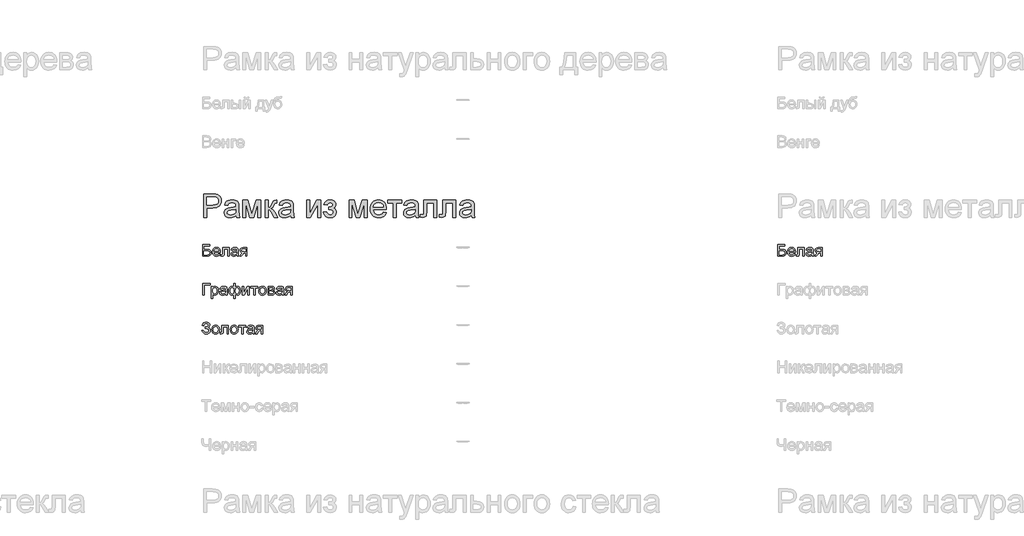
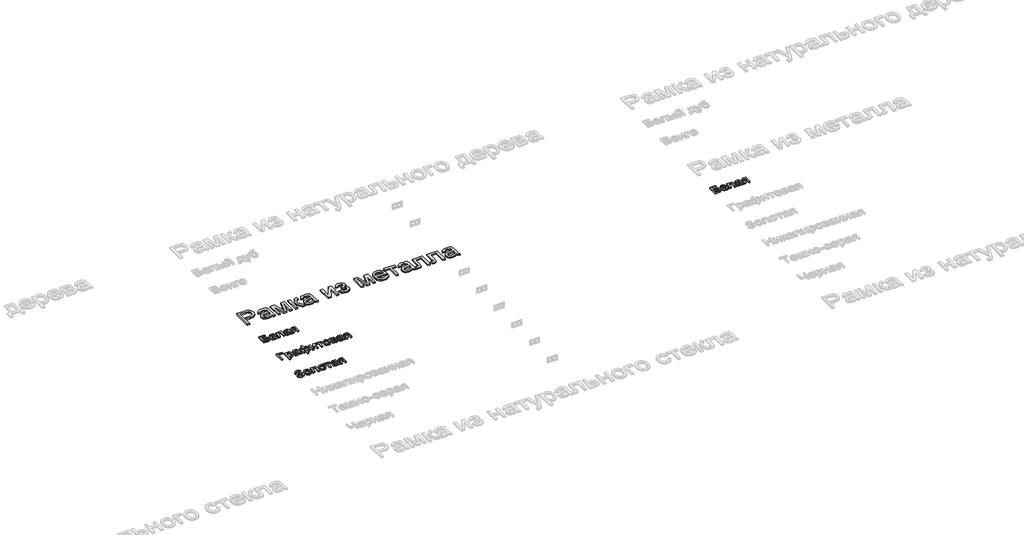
# One storey, part 113 of 168: 5 proxies.
"""IFC4 building model written with IfcOpenShell, lengths in millimetres."""

from ifc_helpers import new_model, si_unit, origin, origin_with_axes, place, context, project, spatial, polyline, outline, extrude, element, save

model = new_model("IFC4")

# Units and contexts
model_context = context("Model", 3, world=origin())
ifc_project = project(units=[si_unit("LENGTHUNIT", "METRE", prefix="MILLI")], contexts=[model_context])

# Site, building, storey
site = spatial("IfcSite", under=ifc_project)
building = spatial("IfcBuilding", under=site)
storey = spatial("IfcBuildingStorey", under=building, Name="Этаж 01", Elevation=0.0)

# Proxies
placement = place(None, origin())
element("IfcBuildingElementProxy", 1, Name="300 мм Arial 2", ObjectType="300 мм Arial 2", at=placement, inside=storey, context=model_context, shape_type="SweptSolid", body=[
    extrude(outline(polyline([(40299.0945017, -12548.4056816), (40299.0945017, -12247.0367511), (40410.7834754, -12247.0367511), (40455.8122316, -12249.9062307), (40475.8893915, -12255.2681108), (40492.4164901, -12263.9961111), (40505.7246213, -12276.4857048), (40516.1448788, -12293.1323651), (40522.8771193, -12312.7680666), (40525.1211995, -12334.224784), (40523.6059855, -12352.7246498), (40519.0603436, -12369.7437906), (40511.4842738, -12385.2822064), (40500.877776, -12399.3398971), (40486.3165468, -12410.9925593), (40466.8762826, -12419.3158895), (40442.5569835, -12424.3098875), (40413.3586494, -12425.9745536), (40336.765618, -12425.9745536), (40336.765618, -12548.4056816), (40299.0945017, -12548.4056816)]), holes=[polyline([(40336.765618, -12388.3034373), (40415.5659413, -12388.3034373), (40448.9696265, -12384.8453465), (40471.0425462, -12374.4710742), (40483.3481989, -12357.824414), (40487.4500832, -12335.5491592), (40485.0312591, -12318.6265874), (40477.7747867, -12304.352766), (40466.581977, -12293.6106117), (40452.3541408, -12287.2830414), (40414.6830245, -12284.7078674), (40336.765618, -12284.7078674), (40336.765618, -12388.3034373)])]), origin_with_axes(), (0.0, 0.0, 1.0), 20.0),
    extrude(outline(polyline([(40713.476781, -12520.1523443), (40695.4781544, -12535.584994), (40676.9460989, -12545.6833548), (40657.4575502, -12551.256767), (40636.589444, -12553.1145711), (40605.1079423, -12548.6448049), (40581.8853914, -12535.2355061), (40567.5655847, -12514.8732377), (40562.7923158, -12489.5445623), (40564.5949376, -12473.9279716), (40570.0028029, -12459.7461207), (40578.3445271, -12447.6060149), (40588.9487257, -12438.1146594), (40615.3258647, -12425.7538244), (40647.9202095, -12420.0884417), (40686.4374544, -12414.1287533), (40713.2560518, -12407.1389954), (40713.476781, -12398.7512859), (40710.883213, -12381.9390788), (40703.1025088, -12370.9394071), (40685.7016904, -12362.7724268), (40661.4582669, -12360.0501), (40639.0174652, -12361.8619189), (40623.3456922, -12367.2973753), (40612.6587202, -12377.3497509), (40605.1723216, -12393.0123268), (40567.5012053, -12388.3034373), (40574.0403078, -12367.7020455), (40583.7983777, -12351.5152378), (40597.685923, -12339.1360086), (40616.6134517, -12329.9573528), (40639.7624262, -12324.273576), (40666.3143092, -12322.3789837), (40691.7809404, -12324.0528468), (40711.9684648, -12329.074436), (40727.1895824, -12336.625214), (40737.7569927, -12345.8866432), (40744.7651447, -12357.3369703), (40749.3084874, -12371.4544419), (40751.1478973, -12404.4166687), (40751.1478973, -12451.2848348), (40753.0608837, -12516.7310418), (40760.5656764, -12548.4056816), (40722.8945601, -12548.4056816), (40713.476781, -12520.1523443)]), holes=[polyline([(40713.476781, -12444.8101117), (40652.7026754, -12456.3616064), (40620.2922716, -12462.4684475), (40605.61378, -12472.4012614), (40600.4634321, -12486.895812), (40603.2685323, -12498.0978187), (40611.683833, -12507.2764745), (40625.525393, -12513.4017097), (40644.6092715, -12515.4434548), (40664.8427813, -12513.1901776), (40682.7218462, -12506.4303459), (40697.2163968, -12496.4699409), (40707.2963635, -12484.6149436), (40711.7661297, -12472.4012614), (40713.2560518, -12455.4786896), (40713.476781, -12444.8101117)])]), origin_with_axes(), (0.0, 0.0, 1.0), 20.0),
    extrude(outline(polyline([(40802.9456823, -12327.0878733), (40867.7664898, -12327.0878733), (40917.7248647, -12504.2598421), (40971.5827888, -12327.0878733), (41033.6812696, -12327.0878733), (41033.6812696, -12548.4056816), (40996.0101533, -12548.4056816), (40996.0101533, -12370.2036431), (40941.8579236, -12548.4056816), (40892.4145835, -12548.4056816), (40840.6167986, -12361.6687808), (40840.6167986, -12548.4056816), (40802.9456823, -12548.4056816), (40802.9456823, -12327.0878733)])), origin_with_axes(), (0.0, 0.0, 1.0), 20.0),
    extrude(outline(polyline([(41090.1879441, -12327.0878733), (41127.8590604, -12327.0878733), (41127.8590604, -12421.265664), (41143.1813455, -12419.5734069), (41153.0957653, -12414.4966353), (41161.8697508, -12401.2528835), (41173.7707334, -12375.0596854), (41190.9508226, -12341.0306009), (41206.1075608, -12329.9573528), (41233.6619222, -12327.0878733), (41240.8724093, -12327.0878733), (41240.8724093, -12364.9797188), (41230.7188662, -12364.7589896), (41212.3247665, -12368.7321151), (41199.3753203, -12393.5273616), (41184.1817939, -12420.345959), (41162.8814263, -12433.4793463), (41174.8191971, -12438.7814455), (41186.6466032, -12448.1394438), (41209.9703217, -12479.0231373), (41250.2901884, -12548.4056816), (41207.4687241, -12548.4056816), (41167.9581979, -12480.4946653), (41148.0925701, -12451.7630814), (41138.8035497, -12446.5483542), (41127.8590604, -12444.8101117), (41127.8590604, -12548.4056816), (41090.1879441, -12548.4056816), (41090.1879441, -12327.0878733)])), origin_with_axes(), (0.0, 0.0, 1.0), 20.0),
    extrude(outline(polyline([(41415.1013222, -12520.1523443), (41397.1026956, -12535.584994), (41378.5706401, -12545.6833548), (41359.0820914, -12551.256767), (41338.2139852, -12553.1145711), (41306.7324835, -12548.6448049), (41283.5099326, -12535.2355061), (41269.1901259, -12514.8732377), (41264.416857, -12489.5445623), (41266.2194788, -12473.9279716), (41271.6273441, -12459.7461207), (41279.9690683, -12447.6060149), (41290.5732669, -12438.1146594), (41316.9504059, -12425.7538244), (41349.5447507, -12420.0884417), (41388.0619956, -12414.1287533), (41414.880593, -12407.1389954), (41415.1013222, -12398.7512859), (41412.5077542, -12381.9390788), (41404.72705, -12370.9394071), (41387.3262316, -12362.7724268), (41363.0828081, -12360.0501), (41340.6420064, -12361.8619189), (41324.9702334, -12367.2973753), (41314.2832614, -12377.3497509), (41306.7968628, -12393.0123268), (41269.1257465, -12388.3034373), (41275.664849, -12367.7020455), (41285.4229189, -12351.5152378), (41299.3104642, -12339.1360086), (41318.2379929, -12329.9573528), (41341.3869674, -12324.273576), (41367.9388504, -12322.3789837), (41393.4054816, -12324.0528468), (41413.593006, -12329.074436), (41428.8141236, -12336.625214), (41439.3815339, -12345.8866432), (41446.3896859, -12357.3369703), (41450.9330286, -12371.4544419), (41452.7724385, -12404.4166687), (41452.7724385, -12451.2848348), (41454.6854249, -12516.7310418), (41462.1902176, -12548.4056816), (41424.5191013, -12548.4056816), (41415.1013222, -12520.1523443)]), holes=[polyline([(41415.1013222, -12444.8101117), (41354.3272166, -12456.3616064), (41321.9168128, -12462.4684475), (41307.2383212, -12472.4012614), (41302.0879733, -12486.895812), (41304.8930735, -12498.0978187), (41313.3083742, -12507.2764745), (41327.1499342, -12513.4017097), (41346.2338127, -12515.4434548), (41366.4673225, -12513.1901776), (41384.3463874, -12506.4303459), (41398.840938, -12496.4699409), (41408.9209047, -12484.6149436), (41413.3906709, -12472.4012614), (41414.880593, -12455.4786896), (41415.1013222, -12444.8101117)])]), origin_with_axes(), (0.0, 0.0, 1.0), 20.0),
    extrude(outline(polyline([(41622.2924619, -12327.0878733), (41659.9635782, -12327.0878733), (41659.9635782, -12495.8721327), (41752.5226882, -12327.0878733), (41801.2302644, -12327.0878733), (41801.2302644, -12548.4056816), (41763.5591481, -12548.4056816), (41763.5591481, -12380.6514918), (41671.5886493, -12548.4056816), (41622.2924619, -12548.4056816), (41622.2924619, -12327.0878733)])), origin_with_axes(), (0.0, 0.0, 1.0), 20.0),
    extrude(outline(polyline([(41909.5347237, -12449.5190013), (41909.5347237, -12411.847885), (41939.259589, -12410.376357), (41954.2691744, -12402.5404705), (41959.5666751, -12395.1920276), (41961.3325087, -12386.1697217), (41958.9688668, -12375.4551586), (41951.8779414, -12367.1502225), (41941.0530137, -12361.8251307), (41927.4873651, -12360.0501), (41913.7745637, -12361.8159336), (41902.2874484, -12367.1134343), (41893.0260192, -12375.9426022), (41885.9902761, -12388.3034373), (41843.6102702, -12383.5945477), (41854.8490652, -12356.8127385), (41871.9371838, -12337.6828747), (41894.8746262, -12326.2049565), (41923.6613924, -12322.3789837), (41955.1520911, -12327.041888), (41978.9908444, -12341.0306009), (41994.0004298, -12361.4940369), (41999.003625, -12385.5811105), (41997.2239958, -12397.9419455), (41991.8851084, -12408.9784054), (41982.9869626, -12418.6904901), (41970.5295585, -12427.0781996), (41985.0700944, -12437.5444423), (41995.4351696, -12450.5490709), (42001.6431783, -12466.1288733), (42003.7125145, -12484.320638), (41998.460999, -12512.0497434), (41982.7064526, -12534.0214956), (41957.515733, -12548.3413022), (41923.955698, -12553.1145711), (41891.1314269, -12548.6999872), (41866.0142837, -12535.4562353), (41848.6042683, -12513.3833156), (41838.9013807, -12482.481228), (41881.2813865, -12477.7723385), (41887.6273509, -12493.7016289), (41898.2775347, -12505.5842173), (41911.9995331, -12512.9786454), (41927.5609415, -12515.4434548), (41942.7176797, -12513.079813), (41955.0785147, -12505.9888875), (41963.3006773, -12495.2191421), (41966.0413982, -12481.8190404), (41964.339944, -12471.2056449), (41959.2355813, -12462.0269891), (41944.7410307, -12451.4319876), (41916.8923636, -12449.2982721), (41909.5347237, -12449.5190013)])), origin_with_axes(), (0.0, 0.0, 1.0), 20.0),
    extrude(outline(polyline([(42168.5236483, -12327.0878733), (42233.3444559, -12327.0878733), (42283.3028308, -12504.2598421), (42337.1607549, -12327.0878733), (42399.2592357, -12327.0878733), (42399.2592357, -12548.4056816), (42361.5881194, -12548.4056816), (42361.5881194, -12370.2036431), (42307.4358897, -12548.4056816), (42257.9925496, -12548.4056816), (42206.1947647, -12361.6687808), (42206.1947647, -12548.4056816), (42168.5236483, -12548.4056816), (42168.5236483, -12327.0878733)])), origin_with_axes(), (0.0, 0.0, 1.0), 20.0),
    extrude(outline(polyline([(42610.7178066, -12482.481228), (42647.6531589, -12487.1901176), (42634.3450277, -12515.0203905), (42613.1090395, -12535.8241173), (42584.4234409, -12548.7919577), (42548.7664786, -12553.1145711), (42525.3921763, -12551.2498692), (42504.5654568, -12545.6557637), (42486.2863202, -12536.3322543), (42470.5547664, -12523.2793413), (42457.9042243, -12506.860308), (42448.8681228, -12487.4384379), (42443.4464619, -12465.013731), (42441.6392416, -12439.5861874), (42443.464856, -12413.2964203), (42448.9416992, -12390.1244531), (42458.0697712, -12370.0702859), (42470.849072, -12353.1339185), (42486.5392391, -12339.6786346), (42504.3999099, -12330.0677174), (42524.4310846, -12324.3011672), (42546.632763, -12322.3789837), (42568.1193708, -12324.2965686), (42587.5504379, -12330.0493233), (42604.9259644, -12339.6372478), (42620.2459502, -12353.0603421), (42632.7516388, -12369.9599213), (42641.6842735, -12389.9773003), (42647.0438543, -12413.1124793), (42648.8303813, -12439.3654582), (42648.6096521, -12449.5190013), (42479.3103579, -12449.5190013), (42485.8310662, -12477.7171562), (42500.9786074, -12498.4473066), (42522.839995, -12511.1944178), (42549.5022426, -12515.4434548), (42569.5518113, -12513.4752861), (42586.4375949, -12507.5707801), (42600.1595933, -12497.3620547), (42610.7178066, -12482.481228)]), holes=[polyline([(42479.3103579, -12411.847885), (42611.1592649, -12411.847885), (42606.0640993, -12391.945469), (42596.0761031, -12377.7084358), (42574.113548, -12364.464684), (42546.4856102, -12360.0501), (42521.0925555, -12363.5725701), (42500.0956906, -12374.1399805), (42485.4999724, -12390.6118968), (42479.3103579, -12411.847885)])]), origin_with_axes(), (0.0, 0.0, 1.0), 20.0),
    extrude(outline(polyline([(42667.6659394, -12327.0878733), (42846.6037419, -12327.0878733), (42846.6037419, -12364.7589896), (42775.9703988, -12364.7589896), (42775.9703988, -12548.4056816), (42738.2992825, -12548.4056816), (42738.2992825, -12364.7589896), (42667.6659394, -12364.7589896), (42667.6659394, -12327.0878733)])), origin_with_axes(), (0.0, 0.0, 1.0), 20.0),
    extrude(outline(polyline([(43020.8326548, -12520.1523443), (43002.8340282, -12535.584994), (42984.3019727, -12545.6833548), (42964.813424, -12551.256767), (42943.9453178, -12553.1145711), (42912.463816, -12548.6448049), (42889.2412651, -12535.2355061), (42874.9214584, -12514.8732377), (42870.1481895, -12489.5445623), (42871.9508113, -12473.9279716), (42877.3586767, -12459.7461207), (42885.7004009, -12447.6060149), (42896.3045994, -12438.1146594), (42922.6817385, -12425.7538244), (42955.2760832, -12420.0884417), (42993.7933281, -12414.1287533), (43020.6119256, -12407.1389954), (43020.8326548, -12398.7512859), (43018.2390867, -12381.9390788), (43010.4583825, -12370.9394071), (42993.0575641, -12362.7724268), (42968.8141407, -12360.0501), (42946.373339, -12361.8619189), (42930.701566, -12367.2973753), (42920.014594, -12377.3497509), (42912.5281954, -12393.0123268), (42874.8570791, -12388.3034373), (42881.3961816, -12367.7020455), (42891.1542515, -12351.5152378), (42905.0417968, -12339.1360086), (42923.9693254, -12329.9573528), (42947.1183, -12324.273576), (42973.670183, -12322.3789837), (42999.1368141, -12324.0528468), (43019.3243386, -12329.074436), (43034.5454561, -12336.625214), (43045.1128665, -12345.8866432), (43052.1210185, -12357.3369703), (43056.6643611, -12371.4544419), (43058.5037711, -12404.4166687), (43058.5037711, -12451.2848348), (43060.4167575, -12516.7310418), (43067.9215502, -12548.4056816), (43030.2504339, -12548.4056816), (43020.8326548, -12520.1523443)]), holes=[polyline([(43020.8326548, -12444.8101117), (42960.0585492, -12456.3616064), (42927.6481454, -12462.4684475), (42912.9696538, -12472.4012614), (42907.8193059, -12486.895812), (42910.6244061, -12498.0978187), (42919.0397067, -12507.2764745), (42932.8812668, -12513.4017097), (42951.9651453, -12515.4434548), (42972.198655, -12513.1901776), (42990.07772, -12506.4303459), (43004.5722706, -12496.4699409), (43014.6522373, -12484.6149436), (43019.1220035, -12472.4012614), (43020.6119256, -12455.4786896), (43020.8326548, -12444.8101117)])]), origin_with_axes(), (0.0, 0.0, 1.0), 20.0),
    extrude(outline(polyline([(43129.1371142, -12327.0878733), (43298.6571375, -12327.0878733), (43298.6571375, -12548.1849524), (43260.9860212, -12548.1849524), (43260.9860212, -12364.7589896), (43166.8082305, -12364.7589896), (43166.8082305, -12470.3411222), (43164.2698447, -12519.0486984), (43159.5149699, -12530.0759612), (43150.3271171, -12539.6133019), (43136.3843895, -12546.2075866), (43117.3648903, -12548.4056816), (43086.7571083, -12546.4926952), (43086.7571083, -12510.7345653), (43103.6061037, -12510.7345653), (43120.6390401, -12508.4169087), (43127.444857, -12501.0592688), (43129.1371142, -12468.2074066), (43129.1371142, -12327.0878733)])), origin_with_axes(), (0.0, 0.0, 1.0), 20.0),
    extrude(outline(polyline([(43373.9993701, -12327.0878733), (43543.5193935, -12327.0878733), (43543.5193935, -12548.1849524), (43505.8482772, -12548.1849524), (43505.8482772, -12364.7589896), (43411.6704864, -12364.7589896), (43411.6704864, -12470.3411222), (43409.1321007, -12519.0486984), (43404.3772259, -12530.0759612), (43395.1893731, -12539.6133019), (43381.2466454, -12546.2075866), (43362.2271463, -12548.4056816), (43331.6193643, -12546.4926952), (43331.6193643, -12510.7345653), (43348.4683597, -12510.7345653), (43365.5012961, -12508.4169087), (43372.307113, -12501.0592688), (43373.9993701, -12468.2074066), (43373.9993701, -12327.0878733)])), origin_with_axes(), (0.0, 0.0, 1.0), 20.0),
    extrude(outline(polyline([(43741.2927541, -12520.1523443), (43723.2941275, -12535.584994), (43704.762072, -12545.6833548), (43685.2735233, -12551.256767), (43664.4054171, -12553.1145711), (43632.9239154, -12548.6448049), (43609.7013645, -12535.2355061), (43595.3815578, -12514.8732377), (43590.6082889, -12489.5445623), (43592.4109107, -12473.9279716), (43597.818776, -12459.7461207), (43606.1605002, -12447.6060149), (43616.7646988, -12438.1146594), (43643.1418378, -12425.7538244), (43675.7361826, -12420.0884417), (43714.2534275, -12414.1287533), (43741.0720249, -12407.1389954), (43741.2927541, -12398.7512859), (43738.6991861, -12381.9390788), (43730.9184819, -12370.9394071), (43713.5176635, -12362.7724268), (43689.27424, -12360.0501), (43666.8334383, -12361.8619189), (43651.1616653, -12367.2973753), (43640.4746933, -12377.3497509), (43632.9882947, -12393.0123268), (43595.3171784, -12388.3034373), (43601.8562809, -12367.7020455), (43611.6143508, -12351.5152378), (43625.5018961, -12339.1360086), (43644.4294248, -12329.9573528), (43667.5783993, -12324.273576), (43694.1302823, -12322.3789837), (43719.5969135, -12324.0528468), (43739.7844379, -12329.074436), (43755.0055555, -12336.625214), (43765.5729658, -12345.8866432), (43772.5811178, -12357.3369703), (43777.1244605, -12371.4544419), (43778.9638704, -12404.4166687), (43778.9638704, -12451.2848348), (43780.8768568, -12516.7310418), (43788.3816495, -12548.4056816), (43750.7105332, -12548.4056816), (43741.2927541, -12520.1523443)]), holes=[polyline([(43741.2927541, -12444.8101117), (43680.5186485, -12456.3616064), (43648.1082447, -12462.4684475), (43633.4297531, -12472.4012614), (43628.2794052, -12486.895812), (43631.0845054, -12498.0978187), (43639.4998061, -12507.2764745), (43653.3413661, -12513.4017097), (43672.4252446, -12515.4434548), (43692.6587544, -12513.1901776), (43710.5378193, -12506.4303459), (43725.0323699, -12496.4699409), (43735.1123366, -12484.6149436), (43739.5821029, -12472.4012614), (43741.0720249, -12455.4786896), (43741.2927541, -12444.8101117)])]), origin_with_axes(), (0.0, 0.0, 1.0), 20.0),
])
element("IfcBuildingElementProxy", 2, Name="150", ObjectType="150", at=placement, inside=storey, context=model_context, shape_type="SweptSolid", body=[
    extrude(outline(polyline([(40282.6133883, -12897.7212163), (40376.791179, -12897.7212163), (40376.791179, -12916.5567745), (40301.4489464, -12916.5567745), (40301.4489464, -12961.2912251), (40336.7288298, -12961.2912251), (40367.8148584, -12965.1171979), (40378.2167218, -12970.6446248), (40386.3193227, -12979.5749603), (40391.53405, -12991.0712726), (40393.2722924, -13004.2966303), (40388.3242796, -13025.7625448), (40373.5538175, -13042.0781113), (40360.2824745, -13046.823789), (40340.1133441, -13048.4056816), (40282.6133883, -13048.4056816), (40282.6133883, -12897.7212163)]), holes=[polyline([(40301.4489464, -13029.5701234), (40341.8056013, -13029.5701234), (40356.0702257, -13028.015822), (40366.269754, -13023.3529177), (40372.3949892, -13015.5814105), (40374.4367343, -13004.7013005), (40369.7646329, -12989.9492325), (40356.7600044, -12982.0765578), (40328.3779085, -12980.1267833), (40301.4489464, -12980.1267833), (40301.4489464, -13029.5701234)])]), origin_with_axes(), (0.0, 0.0, 1.0), 20.0),
    extrude(outline(polyline([(40494.2926883, -13015.4434548), (40512.7603645, -13017.7978996), (40506.1062989, -13031.713036), (40495.4883048, -13042.1148995), (40481.1455055, -13048.5988196), (40463.3170243, -13050.7601263), (40441.2165134, -13047.0307226), (40424.2111682, -13035.8425114), (40413.3678464, -13017.9220597), (40409.7534058, -12993.9959345), (40413.4046346, -12969.2650674), (40424.358321, -12950.7698), (40441.13374, -12939.2366995), (40462.2501665, -12935.3923327), (40482.709004, -12939.2275025), (40499.0567601, -12950.7330118), (40509.7759218, -12969.191491), (40513.3489756, -12993.8855699), (40513.2386111, -12998.9623414), (40428.588964, -12998.9623414), (40431.8493181, -13013.0614189), (40439.4230887, -13023.4264941), (40450.3537825, -13029.8000497), (40463.6849063, -13031.9245682), (40482.1525825, -13027.9882308), (40494.2926883, -13015.4434548)]), holes=[polyline([(40428.588964, -12980.1267833), (40494.5134175, -12980.1267833), (40491.9658347, -12970.1755753), (40486.9718366, -12963.0570587), (40475.990559, -12956.4351828), (40462.1765901, -12954.2278908), (40449.4800628, -12955.9891259), (40438.9816303, -12961.272831), (40431.6837712, -12969.5087892), (40428.588964, -12980.1267833)])]), origin_with_axes(), (0.0, 0.0, 1.0), 20.0),
    extrude(outline(polyline([(40541.6023129, -12937.7467774), (40626.3623246, -12937.7467774), (40626.3623246, -13048.295317), (40607.5267664, -13048.295317), (40607.5267664, -12956.5823356), (40560.437871, -12956.5823356), (40560.437871, -13009.3734019), (40559.1686781, -13033.72719), (40552.1973143, -13044.0094917), (40535.716201, -13048.4056816), (40520.41231, -13047.4491884), (40520.41231, -13029.5701234), (40528.8368076, -13029.5701234), (40537.3532758, -13028.4112951), (40540.7561843, -13024.7324752), (40541.6023129, -13008.3065441), (40541.6023129, -12937.7467774)])), origin_with_axes(), (0.0, 0.0, 1.0), 20.0),
    extrude(outline(polyline([(40725.2490049, -13034.279013), (40706.9836638, -13047.0445182), (40686.8053364, -13050.7601263), (40671.0645855, -13048.5252432), (40659.45331, -13041.8205939), (40652.2934067, -13031.6394596), (40649.9067723, -13018.975122), (40653.5120158, -13004.0759012), (40662.9849772, -12993.2601705), (40676.1735467, -12987.079753), (40692.4707191, -12984.2470616), (40725.1386403, -12977.7723385), (40725.2490049, -12973.5784838), (40723.9522208, -12965.1723802), (40720.0618687, -12959.6725443), (40711.3614596, -12955.5890542), (40699.2397478, -12954.2278908), (40680.1834605, -12957.8515285), (40671.0967752, -12970.7090042), (40652.261217, -12968.3545594), (40660.4098032, -12949.9604597), (40676.8173402, -12939.1815172), (40701.667769, -12935.3923327), (40724.4948468, -12938.7400588), (40737.3891107, -12947.1461624), (40743.164858, -12959.9300617), (40744.084563, -12976.4111751), (40744.084563, -12999.8452582), (40745.0410562, -13032.5683617), (40748.7934526, -13048.4056816), (40729.9578944, -13048.4056816), (40725.2490049, -13034.279013)]), holes=[polyline([(40725.2490049, -12996.6078966), (40694.8619521, -13002.383644), (40678.6567502, -13005.4370645), (40671.3175044, -13010.4034715), (40668.7423304, -13017.6507468), (40674.3525308, -13027.841078), (40690.8152501, -13031.9245682), (40709.8715375, -13027.4180137), (40722.1587961, -13016.5103126), (40725.1386403, -13001.9421856), (40725.2490049, -12996.6078966)])]), origin_with_axes(), (0.0, 0.0, 1.0), 20.0),
    extrude(outline(polyline([(40854.7434672, -12937.7467774), (40854.7434672, -13048.4056816), (40835.907909, -13048.4056816), (40835.907909, -13006.0256757), (40825.6440014, -13006.0256757), (40811.6644855, -13008.4169087), (40798.5310983, -13024.4933519), (40783.5215129, -13048.4056816), (40761.7428988, -13048.4056816), (40780.6520333, -13018.1657816), (40789.0029546, -13007.3132627), (40796.6916883, -13002.4940086), (40783.8158185, -12998.5484742), (40774.7659214, -12991.0528785), (40769.4132384, -12981.0832765), (40767.6290107, -12969.7157228), (40770.0662289, -12956.8214589), (40777.3778836, -12946.6127335), (40789.3064573, -12939.9632664), (40805.5944326, -12937.7467774), (40854.7434672, -12937.7467774)]), holes=[polyline([(40835.907909, -12956.5823356), (40811.0758743, -12956.5823356), (40798.2505883, -12957.672186), (40790.9711233, -12960.9417372), (40786.4645689, -12971.1504626), (40788.1246364, -12978.32876), (40793.1048389, -12983.3089625), (40816.6308925, -12987.1901176), (40835.907909, -12987.1901176), (40835.907909, -12956.5823356)])]), origin_with_axes(), (0.0, 0.0, 1.0), 20.0),
])
element("IfcBuildingElementProxy", 3, Name="150", ObjectType="150", at=placement, inside=storey, context=model_context, shape_type="SweptSolid", body=[
    extrude(outline(polyline([(40284.967833, -13397.7212163), (40379.1456238, -13397.7212163), (40379.1456238, -13416.5567745), (40303.8033912, -13416.5567745), (40303.8033912, -13548.4056816), (40284.967833, -13548.4056816), (40284.967833, -13397.7212163)])), origin_with_axes(), (0.0, 0.0, 1.0), 20.0),
    extrude(outline(polyline([(40393.2722924, -13590.7856874), (40393.2722924, -13437.7467774), (40412.1078506, -13437.7467774), (40412.1078506, -13456.2144536), (40425.1308732, -13440.5978629), (40442.7156326, -13435.3923327), (40455.4535467, -13437.2133485), (40466.5911741, -13442.6763962), (40475.6594652, -13451.4503817), (40482.1893707, -13463.2042115), (40487.4500832, -13492.2301009), (40485.9647596, -13508.3387338), (40481.508789, -13522.7459124), (40474.2247255, -13534.7204713), (40464.2551234, -13543.5312451), (40452.6438479, -13548.952906), (40440.4347642, -13550.7601263), (40424.0456213, -13545.9224781), (40412.1078506, -13533.6904018), (40412.1078506, -13590.7856874), (40393.2722924, -13590.7856874)]), holes=[polyline([(40412.1078506, -13493.9591463), (40414.1449971, -13510.8449299), (40420.2564368, -13522.6539419), (40429.2741442, -13529.6069116), (40440.030094, -13531.9245682), (40450.9607878, -13529.5241382), (40460.2084214, -13522.3228481), (40466.5129991, -13510.0815747), (40468.614525, -13492.5611947), (40466.5635829, -13475.7673816), (40460.4107565, -13463.7928227), (40451.4068447, -13456.6191238), (40440.8026462, -13454.2278908), (40430.157061, -13456.7708751), (40420.8082598, -13464.399828), (40414.2829529, -13476.8756261), (40412.1078506, -13493.9591463)])]), origin_with_axes(), (0.0, 0.0, 1.0), 20.0),
    extrude(outline(polyline([(40579.2734292, -13534.279013), (40561.0080881, -13547.0445182), (40540.8297607, -13550.7601263), (40525.0890098, -13548.5252432), (40513.4777343, -13541.8205939), (40506.317831, -13531.6394596), (40503.9311966, -13518.975122), (40507.5364401, -13504.0759012), (40517.0094015, -13493.2601705), (40530.197971, -13487.079753), (40546.4951434, -13484.2470616), (40579.1630646, -13477.7723385), (40579.2734292, -13473.5784838), (40577.9766452, -13465.1723802), (40574.0862931, -13459.6725443), (40565.3858839, -13455.5890542), (40553.2641721, -13454.2278908), (40534.2078848, -13457.8515285), (40525.1211995, -13470.7090042), (40506.2856413, -13468.3545594), (40514.4342275, -13449.9604597), (40530.8417645, -13439.1815172), (40555.6921933, -13435.3923327), (40578.5192711, -13438.7400588), (40591.413535, -13447.1461624), (40597.1892823, -13459.9300617), (40598.1089873, -13476.4111751), (40598.1089873, -13499.8452582), (40599.0654805, -13532.5683617), (40602.8178769, -13548.4056816), (40583.9823187, -13548.4056816), (40579.2734292, -13534.279013)]), holes=[polyline([(40579.2734292, -13496.6078966), (40548.8863764, -13502.383644), (40532.6811745, -13505.4370645), (40525.3419287, -13510.4034715), (40522.7667547, -13517.6507468), (40528.3769552, -13527.841078), (40544.8396744, -13531.9245682), (40563.8959618, -13527.4180137), (40576.1832204, -13516.5103126), (40579.1630646, -13501.9421856), (40579.2734292, -13496.6078966)])]), origin_with_axes(), (0.0, 0.0, 1.0), 20.0),
    extrude(outline(polyline([(40687.5778886, -13397.7212163), (40706.4134467, -13397.7212163), (40706.4134467, -13448.3785671), (40718.3880057, -13438.6113001), (40732.4227038, -13435.3923327), (40748.9084157, -13439.4850198), (40761.5773519, -13451.7630814), (40769.6477632, -13470.2491517), (40772.3379003, -13492.9658649), (40769.4408295, -13516.3769554), (40760.7496174, -13534.8124418), (40747.7541859, -13546.7732052), (40731.9444572, -13550.7601263), (40720.4297507, -13548.9207164), (40706.4134467, -13538.8775379), (40706.4134467, -13590.7856874), (40687.5778886, -13590.7856874), (40687.5778886, -13538.8775379), (40675.5481473, -13547.7802822), (40661.3111141, -13550.7601263), (40645.5289765, -13546.9525477), (40631.8805545, -13535.5298117), (40622.4443813, -13517.0161503), (40619.2989903, -13491.9357953), (40622.1454772, -13469.8536785), (40630.684938, -13451.6527168), (40644.0344559, -13439.4574287), (40661.3111141, -13435.3923327), (40675.8976352, -13438.6113001), (40687.5778886, -13448.3785671), (40687.5778886, -13397.7212163)]), holes=[polyline([(40638.1345484, -13491.5311251), (40640.0199436, -13510.0079983), (40645.6761293, -13522.4700009), (40654.1282182, -13529.5609264), (40664.4013229, -13531.9245682), (40674.6238438, -13529.5747219), (40681.8941117, -13522.5251832), (40686.2397178, -13510.775952), (40687.6882532, -13494.3270283), (40686.1661414, -13476.7836556), (40681.5998061, -13464.2526752), (40673.9616562, -13456.7340869), (40663.2241005, -13454.2278908), (40653.1441338, -13456.6743061), (40645.1243063, -13464.0135519), (40639.8819879, -13475.7857757), (40638.1345484, -13491.5311251)]), polyline([(40706.3030821, -13493.4073233), (40707.8711791, -13512.4774062), (40712.5754701, -13524.0702876), (40719.643403, -13529.960998), (40728.3024254, -13531.9245682), (40737.9823204, -13529.5103426), (40746.1263081, -13522.2676658), (40751.6583336, -13509.9390204), (40753.5023421, -13492.2668891), (40751.8008879, -13475.5098642), (40746.6965252, -13463.6456699), (40738.925018, -13456.5823356), (40729.2221304, -13454.2278908), (40719.2295357, -13456.6789046), (40712.0604353, -13464.031946), (40707.7424204, -13476.2778179), (40706.3030821, -13493.4073233)])]), origin_with_axes(), (0.0, 0.0, 1.0), 20.0),
    extrude(outline(polyline([(40795.8823479, -13437.7467774), (40814.7179061, -13437.7467774), (40814.7179061, -13522.1389071), (40860.9974611, -13437.7467774), (40885.3512492, -13437.7467774), (40885.3512492, -13548.4056816), (40866.515691, -13548.4056816), (40866.515691, -13464.5285867), (40820.5304416, -13548.4056816), (40795.8823479, -13548.4056816), (40795.8823479, -13437.7467774)])), origin_with_axes(), (0.0, 0.0, 1.0), 20.0),
    extrude(outline(polyline([(40904.1868073, -13437.7467774), (40993.6557086, -13437.7467774), (40993.6557086, -13456.5823356), (40958.339037, -13456.5823356), (40958.339037, -13548.4056816), (40939.5034789, -13548.4056816), (40939.5034789, -13456.5823356), (40904.1868073, -13456.5823356), (40904.1868073, -13437.7467774)])), origin_with_axes(), (0.0, 0.0, 1.0), 20.0),
    extrude(outline(polyline([(41005.4279324, -13493.0762295), (41009.5022255, -13466.3955878), (41021.7251048, -13447.6428031), (41036.8266607, -13438.4549503), (41054.9080607, -13435.3923327), (41074.6955136, -13439.1217364), (41090.5006438, -13450.3099476), (41100.8611205, -13468.0740494), (41104.3146127, -13491.5311251), (41102.7879024, -13510.5598213), (41098.2077716, -13525.0451749), (41090.7075774, -13535.8930952), (41080.4206771, -13544.0094917), (41068.2023963, -13549.0724677), (41054.9080607, -13550.7601263), (41034.8814846, -13547.0445182), (41019.0947485, -13535.8976937), (41008.8446364, -13517.7611114), (41005.4279324, -13493.0762295)]), holes=[polyline([(41024.2634906, -13493.0394413), (41026.4431914, -13510.0861732), (41032.9822938, -13522.2308776), (41042.8231372, -13529.5011455), (41054.9080607, -13531.9245682), (41066.937802, -13529.48735), (41076.7602513, -13522.1756953), (41083.2993537, -13509.8700426), (41085.4790545, -13492.4508301), (41083.2855582, -13475.9007388), (41076.705069, -13463.9215814), (41066.8688241, -13456.6513134), (41054.9080607, -13454.2278908), (41042.8231372, -13456.6421164), (41032.9822938, -13463.8847932), (41026.4431914, -13476.0019064), (41024.2634906, -13493.0394413)])]), origin_with_axes(), (0.0, 0.0, 1.0), 20.0),
    extrude(outline(polyline([(41125.5046156, -13437.7467774), (41167.0017047, -13437.7467774), (41189.7552061, -13440.2667691), (41202.5574995, -13449.5006072), (41207.9101825, -13465.5954445), (41204.672821, -13478.6736494), (41194.9239481, -13487.999458), (41207.5790887, -13498.2081833), (41212.6190721, -13515.9584896), (41209.4276958, -13530.3150845), (41201.8401296, -13540.4226423), (41189.8287825, -13546.4099217), (41173.3660632, -13548.4056816), (41125.5046156, -13548.4056816), (41125.5046156, -13437.7467774)]), holes=[polyline([(41144.3401738, -13480.1267833), (41162.9550027, -13480.1267833), (41178.314076, -13479.1702901), (41185.7820805, -13475.3443173), (41189.0746244, -13468.4281358), (41187.6306876, -13462.8087383), (41183.2988771, -13459.1942977), (41163.5436139, -13456.5823356), (41144.3401738, -13456.5823356), (41144.3401738, -13480.1267833)]), polyline([(41144.3401738, -13529.5701234), (41167.4431631, -13529.5701234), (41187.9341902, -13526.167215), (41192.1740302, -13521.5273033), (41193.7835139, -13514.4133852), (41190.5645465, -13505.345094), (41182.176837, -13500.0659874), (41165.6037531, -13498.9623414), (41144.3401738, -13498.9623414), (41144.3401738, -13529.5701234)])]), origin_with_axes(), (0.0, 0.0, 1.0), 20.0),
    extrude(outline(polyline([(41306.7968628, -13534.279013), (41288.5315218, -13547.0445182), (41268.3531944, -13550.7601263), (41252.6124435, -13548.5252432), (41241.001168, -13541.8205939), (41233.8412647, -13531.6394596), (41231.4546302, -13518.975122), (41235.0598738, -13504.0759012), (41244.5328352, -13493.2601705), (41257.7214047, -13487.079753), (41274.0185771, -13484.2470616), (41306.6864982, -13477.7723385), (41306.7968628, -13473.5784838), (41305.5000788, -13465.1723802), (41301.6097267, -13459.6725443), (41292.9093175, -13455.5890542), (41280.7876058, -13454.2278908), (41261.7313184, -13457.8515285), (41252.6446332, -13470.7090042), (41233.809075, -13468.3545594), (41241.9576612, -13449.9604597), (41258.3651982, -13439.1815172), (41283.215627, -13435.3923327), (41306.0427048, -13438.7400588), (41318.9369687, -13447.1461624), (41324.712716, -13459.9300617), (41325.632421, -13476.4111751), (41325.632421, -13499.8452582), (41326.5889142, -13532.5683617), (41330.3413105, -13548.4056816), (41311.5057524, -13548.4056816), (41306.7968628, -13534.279013)]), holes=[polyline([(41306.7968628, -13496.6078966), (41276.40981, -13502.383644), (41260.2046082, -13505.4370645), (41252.8653624, -13510.4034715), (41250.2901884, -13517.6507468), (41255.9003888, -13527.841078), (41272.3631081, -13531.9245682), (41291.4193954, -13527.4180137), (41303.7066541, -13516.5103126), (41306.6864982, -13501.9421856), (41306.7968628, -13496.6078966)])]), origin_with_axes(), (0.0, 0.0, 1.0), 20.0),
    extrude(outline(polyline([(41436.2913251, -13437.7467774), (41436.2913251, -13548.4056816), (41417.455767, -13548.4056816), (41417.455767, -13506.0256757), (41407.1918593, -13506.0256757), (41393.2123435, -13508.4169087), (41380.0789563, -13524.4933519), (41365.0693709, -13548.4056816), (41343.2907568, -13548.4056816), (41362.1998913, -13518.1657816), (41370.5508126, -13507.3132627), (41378.2395463, -13502.4940086), (41365.3636765, -13498.5484742), (41356.3137794, -13491.0528785), (41350.9610964, -13481.0832765), (41349.1768687, -13469.7157228), (41351.6140869, -13456.8214589), (41358.9257416, -13446.6127335), (41370.8543153, -13439.9632664), (41387.1422906, -13437.7467774), (41436.2913251, -13437.7467774)]), holes=[polyline([(41417.455767, -13456.5823356), (41392.6237323, -13456.5823356), (41379.7984463, -13457.672186), (41372.5189813, -13460.9417372), (41368.0124268, -13471.1504626), (41369.6724943, -13478.32876), (41374.6526969, -13483.3089625), (41398.1787504, -13487.1901176), (41417.455767, -13487.1901176), (41417.455767, -13456.5823356)])]), origin_with_axes(), (0.0, 0.0, 1.0), 20.0),
])
element("IfcBuildingElementProxy", 4, Name="150", ObjectType="150", at=placement, inside=storey, context=model_context, shape_type="SweptSolid", body=[
    extrude(outline(polyline([(40275.550054, -14006.0256757), (40294.3856121, -14001.3167862), (40305.9555009, -14021.7158428), (40316.8861946, -14029.3723868), (40330.879506, -14031.9245682), (40345.0567584, -14030.0069833), (40355.8770876, -14024.2542286), (40362.7334883, -14015.7883442), (40365.0189552, -14005.7313701), (40362.5219562, -13995.1961495), (40355.030959, -13987.0613589), (40343.2357426, -13981.8604272), (40327.8260855, -13980.1267833), (40317.9300598, -13980.1267833), (40317.9300598, -13961.2912251), (40339.2488214, -13959.7645148), (40352.2902382, -13951.9654165), (40357.9556209, -13937.7099892), (40356.0702257, -13928.8394346), (40350.41404, -13921.2104817), (40341.5388869, -13915.9543677), (40329.9965893, -13914.2023297), (40310.774755, -13919.591801), (40299.7750833, -13933.8840165), (40296.7400569, -13947.1645565), (40277.9044987, -13942.455667), (40283.7561217, -13921.8542752), (40294.358021, -13907.1389954), (40309.7101965, -13898.3098275), (40329.8126483, -13895.3667716), (40349.2046279, -13898.4247907), (40364.1176443, -13907.5988479), (40373.6227954, -13920.8655924), (40376.791179, -13936.201673), (40371.8615603, -13954.8440931), (40357.0727041, -13968.7592296), (40367.5481439, -13973.5830823), (40376.1657796, -13981.7270699), (40381.9323299, -13992.4922168), (40383.8545133, -14005.1795471), (40380.1664963, -14023.0172254), (40369.1024453, -14037.6819214), (40351.9499473, -14047.4905751), (40329.9965893, -14050.7601263), (40310.8943167, -14047.9642232), (40295.4524699, -14039.5765137), (40283.671049, -14025.5969979), (40275.550054, -14006.0256757)])), origin_with_axes(), (0.0, 0.0, 1.0), 20.0),
    extrude(outline(polyline([(40402.6900715, -13993.0762295), (40406.7643646, -13966.3955878), (40418.9872439, -13947.6428031), (40434.0887998, -13938.4549503), (40452.1701999, -13935.3923327), (40471.9576527, -13939.1217364), (40487.7627829, -13950.3099476), (40498.1232596, -13968.0740494), (40501.5767518, -13991.5311251), (40500.0500415, -14010.5598213), (40495.4699107, -14025.0451749), (40487.9697165, -14035.8930952), (40477.6828162, -14044.0094917), (40465.4645355, -14049.0724677), (40452.1701999, -14050.7601263), (40432.1436237, -14047.0445182), (40416.3568876, -14035.8976937), (40406.1067755, -14017.7611114), (40402.6900715, -13993.0762295)]), holes=[polyline([(40421.5256297, -13993.0394413), (40423.7053305, -14010.0861732), (40430.2444329, -14022.2308776), (40440.0852763, -14029.5011455), (40452.1701999, -14031.9245682), (40464.1999411, -14029.48735), (40474.0223904, -14022.1756953), (40480.5614928, -14009.8700426), (40482.7411937, -13992.4508301), (40480.5476973, -13975.9007388), (40473.9672081, -13963.9215814), (40464.1309632, -13956.6513134), (40452.1701999, -13954.2278908), (40440.0852763, -13956.6421164), (40430.2444329, -13963.8847932), (40423.7053305, -13976.0019064), (40421.5256297, -13993.0394413)])]), origin_with_axes(), (0.0, 0.0, 1.0), 20.0),
    extrude(outline(polyline([(40532.1845338, -13937.7467774), (40616.9445455, -13937.7467774), (40616.9445455, -14048.295317), (40598.1089873, -14048.295317), (40598.1089873, -13956.5823356), (40551.020092, -13956.5823356), (40551.020092, -14009.3734019), (40549.7508991, -14033.72719), (40542.7795353, -14044.0094917), (40526.2984219, -14048.4056816), (40510.9945309, -14047.4491884), (40510.9945309, -14029.5701234), (40519.4190286, -14029.5701234), (40527.9354968, -14028.4112951), (40531.3384052, -14024.7324752), (40532.1845338, -14008.3065441), (40532.1845338, -13937.7467774)])), origin_with_axes(), (0.0, 0.0, 1.0), 20.0),
    extrude(outline(polyline([(40640.4889932, -13993.0762295), (40644.5632863, -13966.3955878), (40656.7861656, -13947.6428031), (40671.8877215, -13938.4549503), (40689.9691215, -13935.3923327), (40709.7565743, -13939.1217364), (40725.5617046, -13950.3099476), (40735.9221813, -13968.0740494), (40739.3756735, -13991.5311251), (40737.8489632, -14010.5598213), (40733.2688324, -14025.0451749), (40725.7686382, -14035.8930952), (40715.4817379, -14044.0094917), (40703.2634571, -14049.0724677), (40689.9691215, -14050.7601263), (40669.9425454, -14047.0445182), (40654.1558093, -14035.8976937), (40643.9056972, -14017.7611114), (40640.4889932, -13993.0762295)]), holes=[polyline([(40659.3245513, -13993.0394413), (40661.5042522, -14010.0861732), (40668.0433546, -14022.2308776), (40677.884198, -14029.5011455), (40689.9691215, -14031.9245682), (40701.9988628, -14029.48735), (40711.821312, -14022.1756953), (40718.3604145, -14009.8700426), (40720.5401153, -13992.4508301), (40718.3466189, -13975.9007388), (40711.7661297, -13963.9215814), (40701.9298849, -13956.6513134), (40689.9691215, -13954.2278908), (40677.884198, -13956.6421164), (40668.0433546, -13963.8847932), (40661.5042522, -13976.0019064), (40659.3245513, -13993.0394413)])]), origin_with_axes(), (0.0, 0.0, 1.0), 20.0),
    extrude(outline(polyline([(40751.1478973, -13937.7467774), (40840.6167986, -13937.7467774), (40840.6167986, -13956.5823356), (40805.300127, -13956.5823356), (40805.300127, -14048.4056816), (40786.4645689, -14048.4056816), (40786.4645689, -13956.5823356), (40751.1478973, -13956.5823356), (40751.1478973, -13937.7467774)])), origin_with_axes(), (0.0, 0.0, 1.0), 20.0),
    extrude(outline(polyline([(40927.731255, -14034.279013), (40909.465914, -14047.0445182), (40889.2875865, -14050.7601263), (40873.5468357, -14048.5252432), (40861.9355602, -14041.8205939), (40854.7756568, -14031.6394596), (40852.3890224, -14018.975122), (40855.994266, -14004.0759012), (40865.4672273, -13993.2601705), (40878.6557969, -13987.079753), (40894.9529692, -13984.2470616), (40927.6208904, -13977.7723385), (40927.731255, -13973.5784838), (40926.434471, -13965.1723802), (40922.5441189, -13959.6725443), (40913.8437097, -13955.5890542), (40901.721998, -13954.2278908), (40882.6657106, -13957.8515285), (40873.5790253, -13970.7090042), (40854.7434672, -13968.3545594), (40862.8920534, -13949.9604597), (40879.2995904, -13939.1815172), (40904.1500191, -13935.3923327), (40926.9770969, -13938.7400588), (40939.8713609, -13947.1461624), (40945.6471082, -13959.9300617), (40946.5668132, -13976.4111751), (40946.5668132, -13999.8452582), (40947.5233064, -14032.5683617), (40951.2757027, -14048.4056816), (40932.4401446, -14048.4056816), (40927.731255, -14034.279013)]), holes=[polyline([(40927.731255, -13996.6078966), (40897.3442022, -14002.383644), (40881.1390003, -14005.4370645), (40873.7997545, -14010.4034715), (40871.2245806, -14017.6507468), (40876.834781, -14027.841078), (40893.2975003, -14031.9245682), (40912.3537876, -14027.4180137), (40924.6410463, -14016.5103126), (40927.6208904, -14001.9421856), (40927.731255, -13996.6078966)])]), origin_with_axes(), (0.0, 0.0, 1.0), 20.0),
    extrude(outline(polyline([(41057.2257173, -13937.7467774), (41057.2257173, -14048.4056816), (41038.3901592, -14048.4056816), (41038.3901592, -14006.0256757), (41028.1262515, -14006.0256757), (41014.1467357, -14008.4169087), (41001.0133485, -14024.4933519), (40986.0037631, -14048.4056816), (40964.2251489, -14048.4056816), (40983.1342835, -14018.1657816), (40991.4852048, -14007.3132627), (40999.1739385, -14002.4940086), (40986.2980686, -13998.5484742), (40977.2481716, -13991.0528785), (40971.8954885, -13981.0832765), (40970.1112609, -13969.7157228), (40972.5484791, -13956.8214589), (40979.8601337, -13946.6127335), (40991.7887074, -13939.9632664), (41008.0766828, -13937.7467774), (41057.2257173, -13937.7467774)]), holes=[polyline([(41038.3901592, -13956.5823356), (41013.5581245, -13956.5823356), (41000.7328384, -13957.672186), (40993.4533735, -13960.9417372), (40988.946819, -13971.1504626), (40990.6068865, -13978.32876), (40995.587089, -13983.3089625), (41019.1131426, -13987.1901176), (41038.3901592, -13987.1901176), (41038.3901592, -13956.5823356)])]), origin_with_axes(), (0.0, 0.0, 1.0), 20.0),
])
element("IfcBuildingElementProxy", 5, Name="150", ObjectType="150", at=placement, inside=storey, context=model_context, shape_type="SweptSolid", body=[
    extrude(outline(polyline([(47682.6133883, -12897.7212163), (47776.791179, -12897.7212163), (47776.791179, -12916.5567745), (47701.4489464, -12916.5567745), (47701.4489464, -12961.2912251), (47736.7288298, -12961.2912251), (47767.8148584, -12965.1171979), (47778.2167218, -12970.6446248), (47786.3193227, -12979.5749603), (47791.53405, -12991.0712726), (47793.2722924, -13004.2966303), (47788.3242796, -13025.7625448), (47773.5538175, -13042.0781113), (47760.2824745, -13046.823789), (47740.1133441, -13048.4056816), (47682.6133883, -13048.4056816), (47682.6133883, -12897.7212163)]), holes=[polyline([(47701.4489464, -13029.5701234), (47741.8056013, -13029.5701234), (47756.0702257, -13028.015822), (47766.269754, -13023.3529177), (47772.3949892, -13015.5814105), (47774.4367343, -13004.7013005), (47769.7646329, -12989.9492325), (47756.7600044, -12982.0765578), (47728.3779085, -12980.1267833), (47701.4489464, -12980.1267833), (47701.4489464, -13029.5701234)])]), origin_with_axes(), (0.0, 0.0, 1.0), 20.0),
    extrude(outline(polyline([(47894.2926883, -13015.4434548), (47912.7603645, -13017.7978996), (47906.1062989, -13031.713036), (47895.4883048, -13042.1148995), (47881.1455055, -13048.5988196), (47863.3170243, -13050.7601263), (47841.2165134, -13047.0307226), (47824.2111682, -13035.8425114), (47813.3678464, -13017.9220597), (47809.7534058, -12993.9959345), (47813.4046346, -12969.2650674), (47824.358321, -12950.7698), (47841.13374, -12939.2366995), (47862.2501665, -12935.3923327), (47882.709004, -12939.2275025), (47899.0567601, -12950.7330118), (47909.7759218, -12969.191491), (47913.3489756, -12993.8855699), (47913.2386111, -12998.9623414), (47828.588964, -12998.9623414), (47831.8493181, -13013.0614189), (47839.4230887, -13023.4264941), (47850.3537825, -13029.8000497), (47863.6849063, -13031.9245682), (47882.1525825, -13027.9882308), (47894.2926883, -13015.4434548)]), holes=[polyline([(47828.588964, -12980.1267833), (47894.5134175, -12980.1267833), (47891.9658347, -12970.1755753), (47886.9718366, -12963.0570587), (47875.990559, -12956.4351828), (47862.1765901, -12954.2278908), (47849.4800628, -12955.9891259), (47838.9816303, -12961.272831), (47831.6837712, -12969.5087892), (47828.588964, -12980.1267833)])]), origin_with_axes(), (0.0, 0.0, 1.0), 20.0),
    extrude(outline(polyline([(47941.6023129, -12937.7467774), (48026.3623246, -12937.7467774), (48026.3623246, -13048.295317), (48007.5267664, -13048.295317), (48007.5267664, -12956.5823356), (47960.437871, -12956.5823356), (47960.437871, -13009.3734019), (47959.1686781, -13033.72719), (47952.1973143, -13044.0094917), (47935.716201, -13048.4056816), (47920.41231, -13047.4491884), (47920.41231, -13029.5701234), (47928.8368076, -13029.5701234), (47937.3532758, -13028.4112951), (47940.7561843, -13024.7324752), (47941.6023129, -13008.3065441), (47941.6023129, -12937.7467774)])), origin_with_axes(), (0.0, 0.0, 1.0), 20.0),
    extrude(outline(polyline([(48125.2490049, -13034.279013), (48106.9836638, -13047.0445182), (48086.8053364, -13050.7601263), (48071.0645855, -13048.5252432), (48059.45331, -13041.8205939), (48052.2934067, -13031.6394596), (48049.9067723, -13018.975122), (48053.5120158, -13004.0759012), (48062.9849772, -12993.2601705), (48076.1735467, -12987.079753), (48092.4707191, -12984.2470616), (48125.1386403, -12977.7723385), (48125.2490049, -12973.5784838), (48123.9522208, -12965.1723802), (48120.0618687, -12959.6725443), (48111.3614596, -12955.5890542), (48099.2397478, -12954.2278908), (48080.1834605, -12957.8515285), (48071.0967752, -12970.7090042), (48052.261217, -12968.3545594), (48060.4098032, -12949.9604597), (48076.8173402, -12939.1815172), (48101.667769, -12935.3923327), (48124.4948468, -12938.7400588), (48137.3891107, -12947.1461624), (48143.164858, -12959.9300617), (48144.084563, -12976.4111751), (48144.084563, -12999.8452582), (48145.0410562, -13032.5683617), (48148.7934526, -13048.4056816), (48129.9578944, -13048.4056816), (48125.2490049, -13034.279013)]), holes=[polyline([(48125.2490049, -12996.6078966), (48094.8619521, -13002.383644), (48078.6567502, -13005.4370645), (48071.3175044, -13010.4034715), (48068.7423304, -13017.6507468), (48074.3525308, -13027.841078), (48090.8152501, -13031.9245682), (48109.8715375, -13027.4180137), (48122.1587961, -13016.5103126), (48125.1386403, -13001.9421856), (48125.2490049, -12996.6078966)])]), origin_with_axes(), (0.0, 0.0, 1.0), 20.0),
    extrude(outline(polyline([(48254.7434672, -12937.7467774), (48254.7434672, -13048.4056816), (48235.907909, -13048.4056816), (48235.907909, -13006.0256757), (48225.6440014, -13006.0256757), (48211.6644855, -13008.4169087), (48198.5310983, -13024.4933519), (48183.5215129, -13048.4056816), (48161.7428988, -13048.4056816), (48180.6520333, -13018.1657816), (48189.0029546, -13007.3132627), (48196.6916883, -13002.4940086), (48183.8158185, -12998.5484742), (48174.7659214, -12991.0528785), (48169.4132384, -12981.0832765), (48167.6290107, -12969.7157228), (48170.0662289, -12956.8214589), (48177.3778836, -12946.6127335), (48189.3064573, -12939.9632664), (48205.5944326, -12937.7467774), (48254.7434672, -12937.7467774)]), holes=[polyline([(48235.907909, -12956.5823356), (48211.0758743, -12956.5823356), (48198.2505883, -12957.672186), (48190.9711233, -12960.9417372), (48186.4645689, -12971.1504626), (48188.1246364, -12978.32876), (48193.1048389, -12983.3089625), (48216.6308925, -12987.1901176), (48235.907909, -12987.1901176), (48235.907909, -12956.5823356)])]), origin_with_axes(), (0.0, 0.0, 1.0), 20.0),
])

save(model, "model.ifc")
